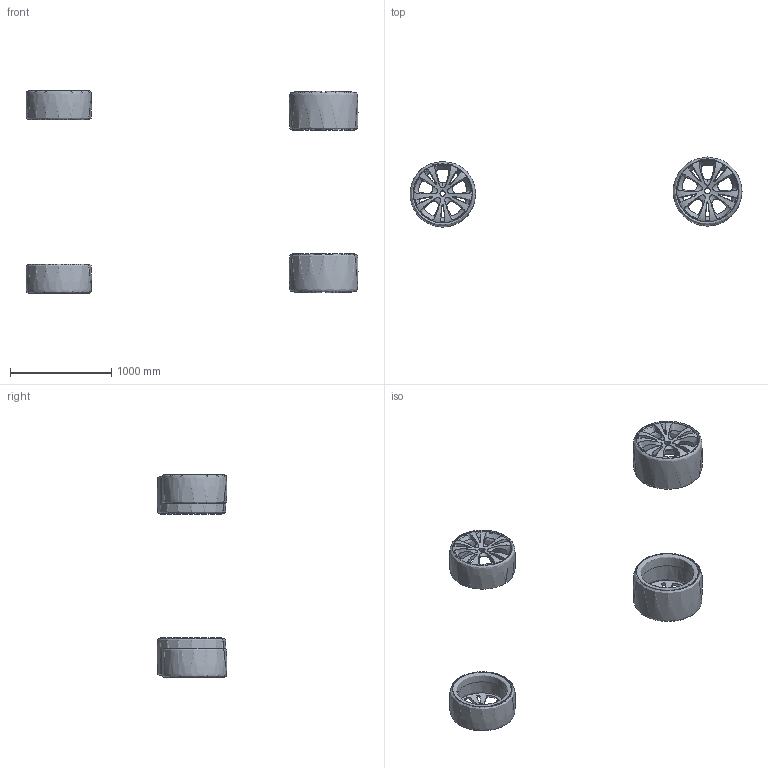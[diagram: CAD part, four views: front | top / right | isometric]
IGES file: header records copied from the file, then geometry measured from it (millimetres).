
Start section:  Autodesk Maya version 8.5 x64 IGES version 5.3
Global section: file name: C:/Users/rg/Desktop/grab_cad/model_500.iges; native system: Autodesk Maya V8.5 x64; preprocessor: 8.5 x64; author: rg; organization: Unknown; date: 20120404.150753; units: centimetre
Bounding box: 3281.03 x 690.25 x 2014.01 mm (x, y, z)
Surface area: 9606705.4 mm2 (no closed solid volume)
Topology: 0 solids, 0 shells, 64 faces, 3380 edges, 3308 vertices
Faces by surface type: bspline 64
